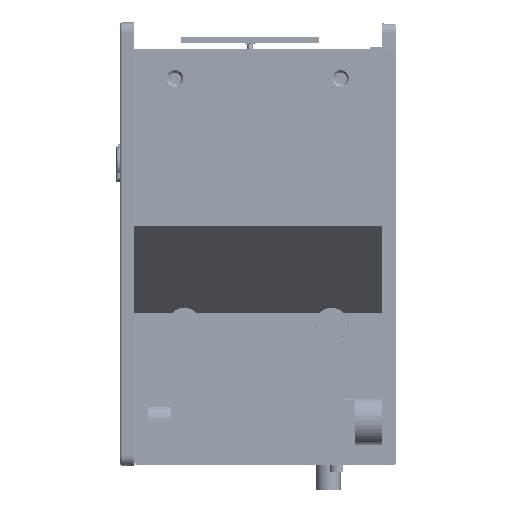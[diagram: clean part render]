
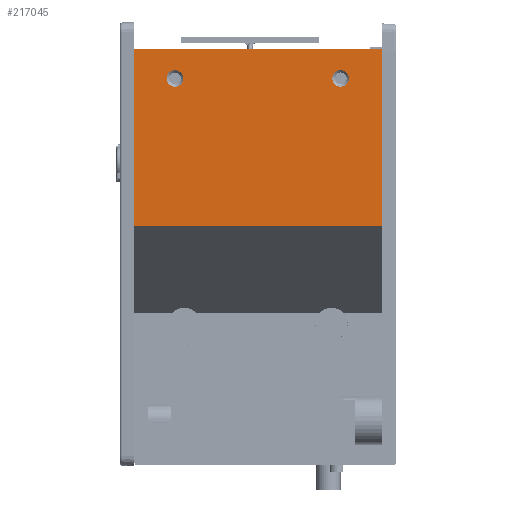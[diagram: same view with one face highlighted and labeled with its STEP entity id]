
A CAD part, left-side view. The second image highlights one B-rep face of the part: STEP entity #217045.
In plain terms, the highlighted planar face has unit normal (-1, 0, 0).
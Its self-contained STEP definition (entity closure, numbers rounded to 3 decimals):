
#187987=DIRECTION('',(0.,0.,1.));
#187988=VECTOR('',#187987,38.328);
#187989=CARTESIAN_POINT('',(-377.681,-27.,4.032));
#187990=LINE('',#187989,#187988);
#192445=DIRECTION('',(0.,1.,0.));
#192446=VECTOR('',#192445,54.);
#192447=CARTESIAN_POINT('',(-377.681,-27.,4.032));
#192448=LINE('',#192447,#192446);
#192449=DIRECTION('',(0.,0.,1.));
#192450=VECTOR('',#192449,38.328);
#192451=CARTESIAN_POINT('',(-377.681,27.,4.032));
#192452=LINE('',#192451,#192450);
#192453=DIRECTION('',(0.,-1.,0.));
#192454=VECTOR('',#192453,54.);
#192455=CARTESIAN_POINT('',(-377.681,27.,42.36));
#192456=LINE('',#192455,#192454);
#192457=CARTESIAN_POINT('',(-377.681,18.,36.));
#192458=DIRECTION('',(-1.,0.,0.));
#192459=DIRECTION('',(0.,1.,0.));
#192460=AXIS2_PLACEMENT_3D('',#192457,#192458,#192459);
#192462=CARTESIAN_POINT('',(-377.681,18.,36.));
#192463=DIRECTION('',(-1.,0.,0.));
#192464=DIRECTION('',(0.,0.,-1.));
#192465=AXIS2_PLACEMENT_3D('',#192462,#192463,#192464);
#192467=CARTESIAN_POINT('',(-377.681,18.,36.));
#192468=DIRECTION('',(-1.,0.,0.));
#192469=DIRECTION('',(0.,-1.,0.));
#192470=AXIS2_PLACEMENT_3D('',#192467,#192468,#192469);
#192472=CARTESIAN_POINT('',(-377.681,18.,36.));
#192473=DIRECTION('',(-1.,0.,0.));
#192474=DIRECTION('',(0.,0.,1.));
#192475=AXIS2_PLACEMENT_3D('',#192472,#192473,#192474);
#192477=CARTESIAN_POINT('',(-377.681,-18.,36.));
#192478=DIRECTION('',(-1.,0.,0.));
#192479=DIRECTION('',(0.,1.,0.));
#192480=AXIS2_PLACEMENT_3D('',#192477,#192478,#192479);
#192482=CARTESIAN_POINT('',(-377.681,-18.,36.));
#192483=DIRECTION('',(-1.,0.,0.));
#192484=DIRECTION('',(0.,0.,-1.));
#192485=AXIS2_PLACEMENT_3D('',#192482,#192483,#192484);
#192487=CARTESIAN_POINT('',(-377.681,-18.,36.));
#192488=DIRECTION('',(-1.,0.,0.));
#192489=DIRECTION('',(0.,-1.,0.));
#192490=AXIS2_PLACEMENT_3D('',#192487,#192488,#192489);
#192492=CARTESIAN_POINT('',(-377.681,-18.,36.));
#192493=DIRECTION('',(-1.,0.,0.));
#192494=DIRECTION('',(0.,0.,1.));
#192495=AXIS2_PLACEMENT_3D('',#192492,#192493,#192494);
#205287=CARTESIAN_POINT('',(-377.681,-27.,4.032));
#205288=VERTEX_POINT('',#205287);
#205289=CARTESIAN_POINT('',(-377.681,-27.,42.36));
#205290=VERTEX_POINT('',#205289);
#205958=CARTESIAN_POINT('',(-377.681,27.,42.36));
#205959=VERTEX_POINT('',#205958);
#205960=CARTESIAN_POINT('',(-377.681,27.,4.032));
#205961=VERTEX_POINT('',#205960);
#207326=CARTESIAN_POINT('',(-377.681,19.8,36.));
#207327=CARTESIAN_POINT('',(-377.681,18.,34.2));
#207328=VERTEX_POINT('',#207326);
#207329=VERTEX_POINT('',#207327);
#207330=CARTESIAN_POINT('',(-377.681,16.2,36.));
#207331=VERTEX_POINT('',#207330);
#207332=CARTESIAN_POINT('',(-377.681,18.,37.8));
#207333=VERTEX_POINT('',#207332);
#207334=CARTESIAN_POINT('',(-377.681,-16.2,36.));
#207335=CARTESIAN_POINT('',(-377.681,-18.,34.2));
#207336=VERTEX_POINT('',#207334);
#207337=VERTEX_POINT('',#207335);
#207338=CARTESIAN_POINT('',(-377.681,-19.8,36.));
#207339=VERTEX_POINT('',#207338);
#207340=CARTESIAN_POINT('',(-377.681,-18.,37.8));
#207341=VERTEX_POINT('',#207340);
#217013=CARTESIAN_POINT('',(-377.681,-32.5,59.032));
#217014=DIRECTION('',(1.,0.,0.));
#217015=DIRECTION('',(0.,0.,-1.));
#217016=AXIS2_PLACEMENT_3D('',#217013,#217014,#217015);
#217017=PLANE('',#217016);
#217018=ORIENTED_EDGE('',*,*,#211618,.F.);
#217019=ORIENTED_EDGE('',*,*,#216999,.T.);
#217020=ORIENTED_EDGE('',*,*,#212970,.T.);
#217022=ORIENTED_EDGE('',*,*,#217021,.T.);
#217023=EDGE_LOOP('',(#217018,#217019,#217020,#217022));
#217024=FACE_OUTER_BOUND('',#217023,.F.);
#217026=ORIENTED_EDGE('',*,*,#217025,.T.);
#217028=ORIENTED_EDGE('',*,*,#217027,.T.);
#217030=ORIENTED_EDGE('',*,*,#217029,.T.);
#217032=ORIENTED_EDGE('',*,*,#217031,.T.);
#217033=EDGE_LOOP('',(#217026,#217028,#217030,#217032));
#217034=FACE_BOUND('',#217033,.F.);
#217036=ORIENTED_EDGE('',*,*,#217035,.T.);
#217038=ORIENTED_EDGE('',*,*,#217037,.T.);
#217040=ORIENTED_EDGE('',*,*,#217039,.T.);
#217042=ORIENTED_EDGE('',*,*,#217041,.T.);
#217043=EDGE_LOOP('',(#217036,#217038,#217040,#217042));
#217044=FACE_BOUND('',#217043,.F.);
#217045=ADVANCED_FACE('',(#217024,#217034,#217044),#217017,.F.);
#192461=CIRCLE('',#192460,1.8);
#192466=CIRCLE('',#192465,1.8);
#192471=CIRCLE('',#192470,1.8);
#192476=CIRCLE('',#192475,1.8);
#192481=CIRCLE('',#192480,1.8);
#192486=CIRCLE('',#192485,1.8);
#192491=CIRCLE('',#192490,1.8);
#192496=CIRCLE('',#192495,1.8);
#211618=EDGE_CURVE('',#205288,#205290,#187990,.T.);
#212970=EDGE_CURVE('',#205961,#205959,#192452,.T.);
#216999=EDGE_CURVE('',#205288,#205961,#192448,.T.);
#217021=EDGE_CURVE('',#205959,#205290,#192456,.T.);
#217025=EDGE_CURVE('',#207328,#207329,#192461,.T.);
#217027=EDGE_CURVE('',#207329,#207331,#192466,.T.);
#217029=EDGE_CURVE('',#207331,#207333,#192471,.T.);
#217031=EDGE_CURVE('',#207333,#207328,#192476,.T.);
#217035=EDGE_CURVE('',#207336,#207337,#192481,.T.);
#217037=EDGE_CURVE('',#207337,#207339,#192486,.T.);
#217039=EDGE_CURVE('',#207339,#207341,#192491,.T.);
#217041=EDGE_CURVE('',#207341,#207336,#192496,.T.);
